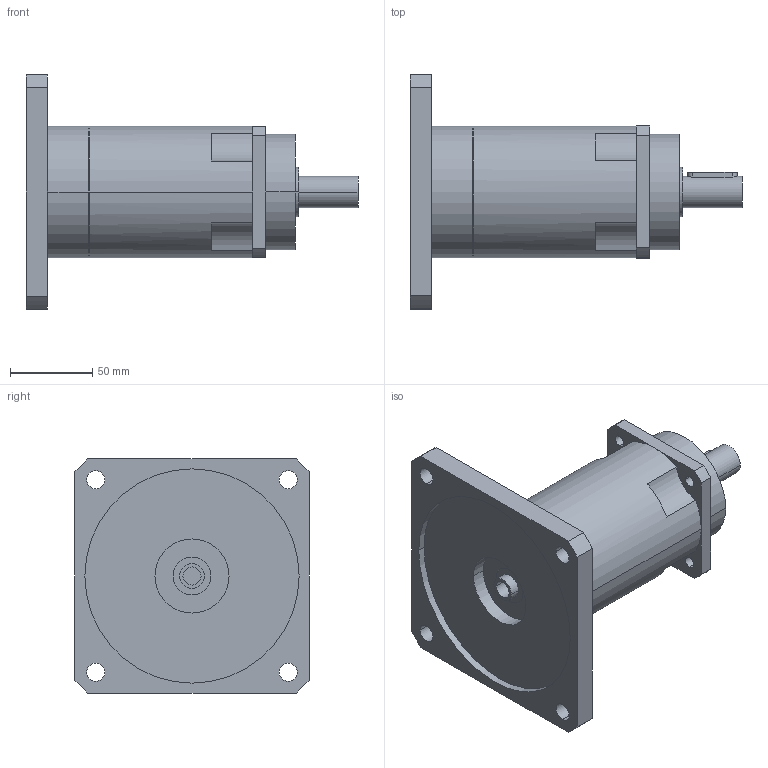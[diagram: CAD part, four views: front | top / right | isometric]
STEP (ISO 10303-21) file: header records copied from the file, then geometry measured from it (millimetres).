
FILE_DESCRIPTION(('CoCreate Modeling STEP Export'),'2;1');
FILE_NAME('GPR100_ig-48-64-80-100-120-144-180-216_19_B5_11_P16.stp','2014-08-26T11:53:30',(''),(''),'CoCreate Modeling STEP processor for AP214 (Solid Model)','CoCreate Modeling 16.00C 25-Feb-2009 (C) Parametric Technology GmbH','');
FILE_SCHEMA(('AUTOMOTIVE_DESIGN { 1 0 10303 214 1 1 1 1 }'));
Length unit declared in the file: millimetre
Products named in the file (2): GPR100_ig-48-64-80-100-120-144-180-216_19_B5_11_P16
Assembly tree (1 placements, depth 2):
  GPR100_ig-48-64-80-100-120-144-180-216_19_B5_11_P16
    GPR100_ig-48-64-80-100-120-144-180-216_19_B5_11_P16
Bounding box: 201.4 x 142 x 142 mm (x, y, z)
Volume: 928713 mm3; surface area: 96734.7 mm2
Topology: 1 solids, 1 shells, 89 faces, 245 edges, 167 vertices
Faces by surface type: cylinder 52, plane 31, cone 6
Entity records: 2602 total; most frequent: ORIENTED_EDGE 486, CARTESIAN_POINT 472, DIRECTION 386, EDGE_CURVE 243, VERTEX_POINT 167, AXIS2_PLACEMENT_3D 145, EDGE_LOOP 116, VECTOR 96
